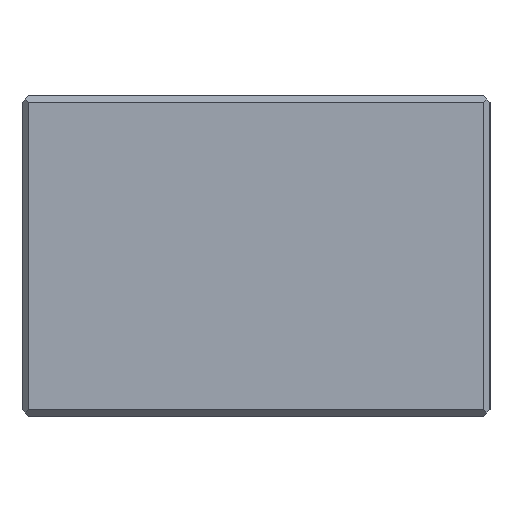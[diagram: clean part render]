
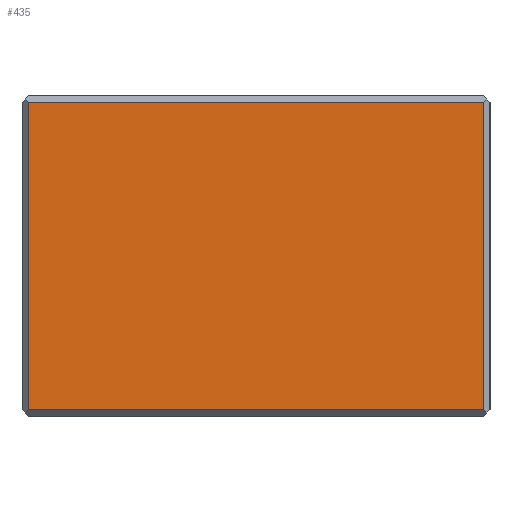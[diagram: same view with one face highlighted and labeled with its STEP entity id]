
A CAD part, left-side view. The second image highlights one B-rep face of the part: STEP entity #435.
In plain terms, the highlighted planar face has unit normal (-1, 0, 0).
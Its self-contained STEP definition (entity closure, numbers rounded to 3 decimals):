
#108=ORIENTED_EDGE('',*,*,#152,.T.);
#109=ORIENTED_EDGE('',*,*,#183,.F.);
#110=ORIENTED_EDGE('',*,*,#195,.F.);
#111=ORIENTED_EDGE('',*,*,#164,.T.);
#152=EDGE_CURVE('',#204,#207,#248,.T.);
#164=EDGE_CURVE('',#217,#204,#260,.T.);
#183=EDGE_CURVE('',#231,#207,#275,.T.);
#195=EDGE_CURVE('',#217,#231,#283,.T.);
#204=VERTEX_POINT('',#609);
#207=VERTEX_POINT('',#615);
#217=VERTEX_POINT('',#641);
#231=VERTEX_POINT('',#676);
#248=LINE('',#616,#296);
#260=LINE('',#640,#308);
#275=LINE('',#677,#323);
#283=LINE('',#700,#331);
#296=VECTOR('',#501,1000.);
#308=VECTOR('',#519,1000.);
#323=VECTOR('',#548,1000.);
#331=VECTOR('',#570,1000.);
#357=EDGE_LOOP('',(#108,#109,#110,#111));
#391=FACE_BOUND('',#357,.T.);
#417=PLANE('',#478);
#435=ADVANCED_FACE('',(#391),#417,.F.);
#478=AXIS2_PLACEMENT_3D('',#707,#579,#580);
#501=DIRECTION('',(0.,-1.,0.));
#519=DIRECTION('',(0.,0.,-1.));
#548=DIRECTION('',(0.,0.,-1.));
#570=DIRECTION('',(0.,-1.,0.));
#579=DIRECTION('',(1.,0.,0.));
#580=DIRECTION('',(0.,0.,-1.));
#609=CARTESIAN_POINT('',(-98.,75.,-25.));
#615=CARTESIAN_POINT('',(-98.,1.,-25.));
#616=CARTESIAN_POINT('',(-98.,76.,-25.));
#640=CARTESIAN_POINT('',(-98.,75.,26.));
#641=CARTESIAN_POINT('',(-98.,75.,25.));
#676=CARTESIAN_POINT('',(-98.,1.,25.));
#677=CARTESIAN_POINT('',(-98.,1.,26.));
#700=CARTESIAN_POINT('',(-98.,76.,25.));
#707=CARTESIAN_POINT('',(-98.,75.,26.));
